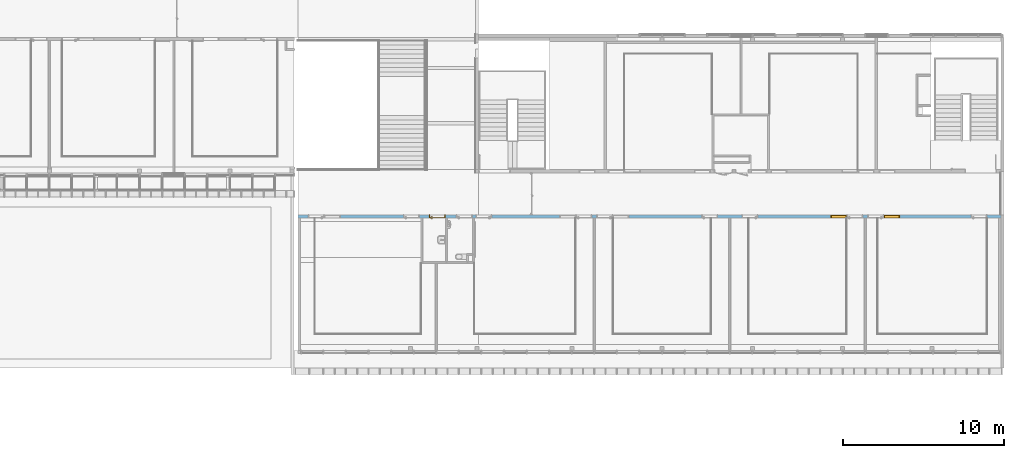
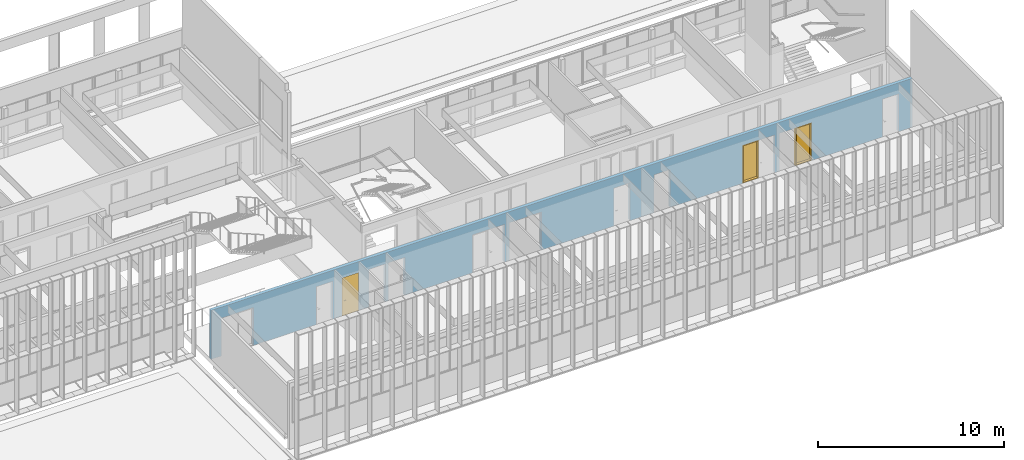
# One storey, part 77 of 106: 2 windows, 1 door, 18 openings, plus 1 element that does not belong to this part.
"""IFC2X3 building model written with IfcOpenShell, lengths in centimetres."""

from ifc_helpers import new_model, entity, si_unit, converted_unit, derived_unit, direction, frame, frame_2d, origin, place, context, subcontext, project, spatial, polyline, rectangle, extrude, clip, bounded_halfspace, faceted_brep, source, transform, mapped, material, material_list, layer, layer_set, layer_usage, type_object, type_shapes, element, fill, save


model = new_model("IFC2X3")

# Units and contexts
model_context = context("Model", 3, precision=0.001, world=origin(), true_north=direction((6.12303176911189e-17, 1.0)))
body_context = subcontext(model_context, "Body", "Model", "MODEL_VIEW")
ifc_project = project(units=[si_unit("LENGTHUNIT", "METRE", prefix="CENTI"), si_unit("AREAUNIT", "SQUARE_METRE"), si_unit("VOLUMEUNIT", "CUBIC_METRE"), converted_unit("PLANEANGLEUNIT", "DEGREE", entity("IfcRatioMeasure", 0.0174532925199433), si_unit("PLANEANGLEUNIT", "RADIAN"), dimensions=[0, 0, 0, 0, 0, 0, 0]), si_unit("MASSUNIT", "GRAM", prefix="KILO"), derived_unit("MASSDENSITYUNIT", [(si_unit("MASSUNIT", "GRAM", prefix="KILO"), 1), (si_unit("LENGTHUNIT", "METRE"), -3)]), si_unit("TIMEUNIT", "SECOND"), si_unit("FREQUENCYUNIT", "HERTZ"), si_unit("THERMODYNAMICTEMPERATUREUNIT", "DEGREE_CELSIUS"), derived_unit("THERMALTRANSMITTANCEUNIT", [(si_unit("MASSUNIT", "GRAM", prefix="KILO"), 1), (si_unit("THERMODYNAMICTEMPERATUREUNIT", "KELVIN"), -1), (si_unit("TIMEUNIT", "SECOND"), -3)]), derived_unit("VOLUMETRICFLOWRATEUNIT", [(si_unit("LENGTHUNIT", "METRE"), 3), (si_unit("TIMEUNIT", "SECOND"), -1)]), si_unit("ELECTRICCURRENTUNIT", "AMPERE"), si_unit("ELECTRICVOLTAGEUNIT", "VOLT"), si_unit("POWERUNIT", "WATT"), si_unit("FORCEUNIT", "NEWTON", prefix="KILO"), si_unit("ILLUMINANCEUNIT", "LUX"), si_unit("LUMINOUSFLUXUNIT", "LUMEN"), si_unit("LUMINOUSINTENSITYUNIT", "CANDELA"), derived_unit("USERDEFINED", [(si_unit("MASSUNIT", "GRAM", prefix="KILO"), -1), (si_unit("LENGTHUNIT", "METRE"), -2), (si_unit("TIMEUNIT", "SECOND"), 3), (si_unit("LUMINOUSFLUXUNIT", "LUMEN"), 1)]), derived_unit("LINEARVELOCITYUNIT", [(si_unit("LENGTHUNIT", "METRE"), 1), (si_unit("TIMEUNIT", "SECOND"), -1)]), si_unit("PRESSUREUNIT", "PASCAL"), derived_unit("USERDEFINED", [(si_unit("LENGTHUNIT", "METRE"), -2), (si_unit("MASSUNIT", "GRAM", prefix="KILO"), 1), (si_unit("TIMEUNIT", "SECOND"), -2)])], contexts=[model_context])

# Site, building, storey
site_placement = place(None, frame((-2781.94577612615, 7442.24238424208, 0.0)))
site = spatial("IfcSite", under=ifc_project, at=site_placement, Name="Default", CompositionType="ELEMENT")
building_placement = place(site_placement, origin())
building = spatial("IfcBuilding", under=site, at=building_placement, CompositionType="ELEMENT")
storey_placement = place(building_placement, frame((0.0, 0.0, 422.0)))
storey = spatial("IfcBuildingStorey", under=building, at=storey_placement, Name="Toiture - Cuisine", CompositionType="ELEMENT", Elevation=421.999999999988)

# Wall, openings, door, windows
ifc_material_1 = material(Name="01 - Maçonnerie")
ifc_layer = layer(ifc_material_1, 20.0)
ifc_layer_set = layer_set([ifc_layer], Name="Mur de base:04 - Structure - béton - 20cm")
ifc_layer_usage = layer_usage(ifc_layer_set, "AXIS2", "NEGATIVE", 10.0)
wall_type = type_object("IfcWallType", Name="Mur de base:04 - Structure - béton - 20cm", PredefinedType="STANDARD", material=ifc_layer_set)
wall_placement = place(building_placement, frame((-4767.99987760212, -2200.15656731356, 422.0)))
wall = element("IfcWallStandardCase", 1, at=wall_placement, inside=storey, type_object=wall_type, material=ifc_layer_usage, Name="Mur de base:04 - Structure - béton - 20cm", ObjectType="Mur de base:04 - Structure - béton - 20cm", context=body_context, shape_type="Clipping", body=[
    clip(extrude(rectangle(XDim=4357.99999476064, YDim=19.9999999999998, at=frame_2d((2178.99999738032, -6.30606677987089e-14), x_axis=(-1.0, 0.0))), origin(), (0.0, 0.0, 1.0), 321.0), bounded_halfspace(frame((0.0, 10.0, 321.0), z_axis=(0.0, 0.0, -1.0), x_axis=(0.0, 1.0, 0.0)), True, frame((0.0, 10.0, 321.0)), polyline([(0.0, 0.0), (0.0, -20.0), (15.2999999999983, -20.0), (103.799999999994, -20.0), (105.799999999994, -20.0), (763.799999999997, -20.0), (773.799999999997, -20.0), (915.699994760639, -20.0), (925.699994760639, -20.0), (1082.69999476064, -20.0), (1092.69999476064, -20.0), (1720.69999476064, -20.0), (1722.69999476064, -20.0), (1832.69999476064, -20.0), (1842.69999476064, -20.0), (1952.69999476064, -20.0), (1954.69999476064, -20.0), (2560.69999476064, -20.0), (2562.69999476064, -20.0), (2672.69999476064, -20.0), (2682.69999476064, -20.0), (2792.69999476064, -20.0), (2794.69999476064, -20.0), (3400.69999476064, -20.0), (3402.69999476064, -20.0), (3512.69999476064, -20.0), (3522.69999476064, -20.0), (3592.69999476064, -20.0), (3594.69999476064, -20.0), (4270.69999476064, -20.0), (4272.69999476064, -20.0), (4342.69999476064, -20.0), (4358.0, -20.0), (4358.0, 0.0), (4356.0, 0.0), (1451.49999791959, 0.0), (1441.49999791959, 0.0), (1120.0, 0.0), (0.0, 0.0)]))),
])
opening_1_placement = place(wall_placement, origin())
element("IfcOpeningElement", 2, at=opening_1_placement, cuts=wall, Name="Mur de base:04 - Structure - béton - 20cm", ObjectType="Opening", context=body_context, shape_type="SweptSolid", body=[
    extrude(rectangle(XDim=270.0, YDim=20.0, at=frame_2d((0.0, 4.2632564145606e-14), x_axis=(0.0, 1.0))), frame((4368.0, 10.0, 135.0), z_axis=(0.0, 1.0, 0.0), x_axis=(1.0, 0.0, 0.0)), (0.0, 0.0, 1.0), 260.077533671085),
])
opening_2_placement = place(wall_placement, frame((4272.69999476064, 10.0, 0.0)))
element("IfcOpeningElement", 3, at=opening_2_placement, cuts=wall, Name="Int. Simple:PV (0.93m x 2.50m):1", ObjectType="Opening", context=body_context, shape_type="SweptSolid", body=[
    extrude(rectangle(XDim=248.500000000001, YDim=99.9999999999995, at=frame_2d((124.250000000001, 50.0), x_axis=(1.0, 0.0))), frame((0.0, 0.0, 0.0), z_axis=(0.0, -1.0, 0.0), x_axis=(0.0, 0.0, 1.0)), (0.0, 0.0, 1.0), 20.0),
])
opening_3_placement = place(wall_placement, frame((3632.69999476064, 10.0, 0.0)))
element("IfcOpeningElement", 4, at=opening_3_placement, cuts=wall, Name="Int. Simple:PV (0.93m x 2.50m):1", ObjectType="Opening", context=body_context, shape_type="SweptSolid", body=[
    extrude(rectangle(XDim=248.500000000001, YDim=99.9999999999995, at=frame_2d((124.250000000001, 49.9999999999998), x_axis=(1.0, 0.0))), frame((0.0, 0.0, 0.0), z_axis=(0.0, -1.0, 0.0), x_axis=(0.0, 0.0, 1.0)), (0.0, 0.0, 1.0), 20.0),
])
opening_4_placement = place(wall_placement, frame((3502.69999476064, 10.0, 0.0)))
element("IfcOpeningElement", 5, at=opening_4_placement, cuts=wall, Name="Int. Simple:PV (0.93m x 2.50m):1", ObjectType="Opening", context=body_context, shape_type="SweptSolid", body=[
    extrude(rectangle(XDim=248.500000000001, YDim=99.9999999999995, at=frame_2d((124.250000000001, 49.9999999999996), x_axis=(1.0, 0.0))), frame((0.0, 0.0, 0.0), z_axis=(0.0, -1.0, 0.0), x_axis=(0.0, 0.0, 1.0)), (0.0, 0.0, 1.0), 20.0),
])
opening_5_placement = place(wall_placement, frame((2852.69999476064, 10.0, 0.0)))
element("IfcOpeningElement", 6, at=opening_5_placement, cuts=wall, Name="Int. Simple:PV (0.93m x 2.50m):1", ObjectType="Opening", context=body_context, shape_type="SweptSolid", body=[
    extrude(rectangle(XDim=248.500000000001, YDim=99.9999999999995, at=frame_2d((124.250000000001, 49.9999999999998), x_axis=(1.0, 0.0))), frame((0.0, 0.0, 0.0), z_axis=(0.0, -1.0, 0.0), x_axis=(0.0, 0.0, 1.0)), (0.0, 0.0, 1.0), 20.0),
])
opening_6_placement = place(wall_placement, frame((2602.69999476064, 10.0, 0.0)))
element("IfcOpeningElement", 7, at=opening_6_placement, cuts=wall, Name="Int. Simple:PV (0.93m x 2.50m):1", ObjectType="Opening", context=body_context, shape_type="SweptSolid", body=[
    extrude(rectangle(XDim=248.500000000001, YDim=99.9999999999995, at=frame_2d((124.250000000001, 49.9999999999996), x_axis=(1.0, 0.0))), frame((0.0, 0.0, 0.0), z_axis=(0.0, -1.0, 0.0), x_axis=(0.0, 0.0, 1.0)), (0.0, 0.0, 1.0), 20.0),
])
opening_7_placement = place(wall_placement, frame((1952.69999476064, 10.0, 0.0)))
element("IfcOpeningElement", 8, at=opening_7_placement, cuts=wall, Name="Int. Simple:PV (0.93m x 2.50m):1", ObjectType="Opening", context=body_context, shape_type="SweptSolid", body=[
    extrude(rectangle(XDim=248.500000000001, YDim=99.9999999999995, at=frame_2d((124.250000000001, 49.9999999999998), x_axis=(1.0, 0.0))), frame((0.0, 0.0, 0.0), z_axis=(0.0, -1.0, 0.0), x_axis=(0.0, 0.0, 1.0)), (0.0, 0.0, 1.0), 20.0),
])
opening_8_placement = place(wall_placement, frame((1822.69999476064, 10.0, 0.0)))
element("IfcOpeningElement", 9, at=opening_8_placement, cuts=wall, Name="Int. Simple:PV (0.93m x 2.50m):1", ObjectType="Opening", context=body_context, shape_type="SweptSolid", body=[
    extrude(rectangle(XDim=248.500000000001, YDim=99.9999999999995, at=frame_2d((124.250000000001, 49.9999999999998), x_axis=(1.0, 0.0))), frame((0.0, 0.0, 0.0), z_axis=(0.0, -1.0, 0.0), x_axis=(0.0, 0.0, 1.0)), (0.0, 0.0, 1.0), 20.0),
])
opening_9_placement = place(wall_placement, frame((1202.69999476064, 10.0, 0.0)))
element("IfcOpeningElement", 10, at=opening_9_placement, cuts=wall, Name="Int. Simple:PV (0.93m x 2.50m):1", ObjectType="Opening", context=body_context, shape_type="SweptSolid", body=[
    extrude(rectangle(XDim=248.500000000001, YDim=99.9999999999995, at=frame_2d((124.250000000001, 49.9999999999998), x_axis=(1.0, 0.0))), frame((0.0, 0.0, 0.0), z_axis=(0.0, -1.0, 0.0), x_axis=(0.0, 0.0, 1.0)), (0.0, 0.0, 1.0), 20.0),
])
opening_10_placement = place(wall_placement, frame((1081.19999476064, 10.0, 0.0)))
element("IfcOpeningElement", 11, at=opening_10_placement, cuts=wall, Name="Int. Simple:PP simple (0.93m x 2.50m):1", ObjectType="Opening", context=body_context, shape_type="SweptSolid", body=[
    extrude(rectangle(XDim=248.500000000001, YDim=99.9999999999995, at=frame_2d((124.250000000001, 49.9999999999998), x_axis=(1.0, 0.0))), frame((0.0, 0.0, 0.0), z_axis=(0.0, -1.0, 0.0), x_axis=(0.0, 0.0, 1.0)), (0.0, 0.0, 1.0), 20.0),
])
opening_11_placement = place(wall_placement, frame((753.799999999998, 10.0, 0.0)))
element("IfcOpeningElement", 12, at=opening_11_placement, cuts=wall, Name="Int. Simple:PV (0.93m x 2.50m):1", ObjectType="Opening", context=body_context, shape_type="SweptSolid", body=[
    extrude(rectangle(XDim=248.500000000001, YDim=99.9999999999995, at=frame_2d((124.250000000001, 50.0), x_axis=(1.0, 0.0))), frame((0.0, 0.0, 0.0), z_axis=(0.0, -1.0, 0.0), x_axis=(0.0, 0.0, 1.0)), (0.0, 0.0, 1.0), 20.0),
])
opening_12_placement = place(wall_placement, frame((163.799999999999, 10.0, 0.0)))
element("IfcOpeningElement", 13, at=opening_12_placement, cuts=wall, Name="Int. Simple:PV (0.93m x 2.50m):1", ObjectType="Opening", context=body_context, shape_type="SweptSolid", body=[
    extrude(rectangle(XDim=248.500000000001, YDim=99.9999999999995, at=frame_2d((124.250000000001, 49.9999999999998), x_axis=(1.0, 0.0))), frame((0.0, 0.0, 0.0), z_axis=(0.0, -1.0, 0.0), x_axis=(0.0, 0.0, 1.0)), (0.0, 0.0, 1.0), 20.0),
])
opening_13_placement = place(wall_placement, frame((263.799999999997, 10.0, 0.0)))
element("IfcOpeningElement", 14, at=opening_13_placement, cuts=wall, Name="châssis intérieur vitré:châssis intérieur vitré (h=270) R+1:1", ObjectType="Opening", context=body_context, shape_type="SweptSolid", body=[
    extrude(rectangle(XDim=250.0, YDim=99.9999999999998, at=frame_2d((125.0, 49.9999999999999), x_axis=(1.0, 0.0))), frame((0.0, 0.0, 0.0), z_axis=(0.0, -1.0, 0.0), x_axis=(0.0, 0.0, 1.0)), (0.0, 0.0, 1.0), 20.0),
])
opening_14_placement = place(wall_placement, frame((1722.69999476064, 10.0, 0.0)))
element("IfcOpeningElement", 15, at=opening_14_placement, cuts=wall, Name="châssis intérieur vitré:châssis intérieur vitré (h=270) R+1:1", ObjectType="Opening", context=body_context, shape_type="SweptSolid", body=[
    extrude(rectangle(XDim=250.0, YDim=99.9999999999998, at=frame_2d((125.0, 49.9999999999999), x_axis=(1.0, 0.0))), frame((0.0, 0.0, 0.0), z_axis=(0.0, -1.0, 0.0), x_axis=(0.0, 0.0, 1.0)), (0.0, 0.0, 1.0), 20.0),
])
opening_15_placement = place(wall_placement, frame((2052.69999476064, 10.0, 0.0)))
element("IfcOpeningElement", 16, at=opening_15_placement, cuts=wall, Name="châssis intérieur vitré:châssis intérieur vitré (h=270) R+1:1", ObjectType="Opening", context=body_context, shape_type="SweptSolid", body=[
    extrude(rectangle(XDim=250.0, YDim=99.9999999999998, at=frame_2d((125.0, 49.9999999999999), x_axis=(1.0, 0.0))), frame((0.0, 0.0, 0.0), z_axis=(0.0, -1.0, 0.0), x_axis=(0.0, 0.0, 1.0)), (0.0, 0.0, 1.0), 20.0),
])
opening_16_placement = place(wall_placement, frame((3402.69999476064, 10.0, 0.0)))
opening_16 = element("IfcOpeningElement", 17, at=opening_16_placement, cuts=wall, Name="châssis intérieur vitré:châssis intérieur vitré (h=270) R+1:1", ObjectType="Opening", context=body_context, shape_type="SweptSolid", body=[
    extrude(rectangle(XDim=250.0, YDim=99.9999999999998, at=frame_2d((125.0, 49.9999999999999), x_axis=(1.0, 0.0))), frame((0.0, 0.0, 0.0), z_axis=(0.0, -1.0, 0.0), x_axis=(0.0, 0.0, 1.0)), (0.0, 0.0, 1.0), 20.0),
])
opening_17_placement = place(wall_placement, frame((3732.69999476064, 10.0, 0.0)))
opening_17 = element("IfcOpeningElement", 18, at=opening_17_placement, cuts=wall, Name="châssis intérieur vitré:châssis intérieur vitré (h=270) R+1:1", ObjectType="Opening", context=body_context, shape_type="SweptSolid", body=[
    extrude(rectangle(XDim=250.0, YDim=99.9999999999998, at=frame_2d((125.0, 49.9999999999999), x_axis=(1.0, 0.0))), frame((0.0, 0.0, 0.0), z_axis=(0.0, -1.0, 0.0), x_axis=(0.0, 0.0, 1.0)), (0.0, 0.0, 1.0), 20.0),
])
opening_18_placement = place(wall_placement, frame((914.199994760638, 10.0, 0.0)))
opening_18 = element("IfcOpeningElement", 19, at=opening_18_placement, cuts=wall, Name="Int. Simple:PP simple (0.93m x 2.50m):1", ObjectType="Opening", context=body_context, shape_type="SweptSolid", body=[
    extrude(rectangle(XDim=248.500000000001, YDim=99.9999999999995, at=frame_2d((124.250000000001, 50.0), x_axis=(1.0, 0.0))), frame((0.0, 0.0, 0.0), z_axis=(0.0, -1.0, 0.0), x_axis=(0.0, 0.0, 1.0)), (0.0, 0.0, 1.0), 20.0),
])
ifc_material_2 = material(Name="Finition Peinture - Blanc satiné")
ifc_material_3 = material(Name="Bois - Panneau de porte")
ifc_material_4 = material(Name="Bois - Cadre de porte")
ifc_material_list_1 = material_list([ifc_material_2, ifc_material_3, ifc_material_4])
ifc_material_list_2 = material_list([ifc_material_2, ifc_material_3, ifc_material_4])
door_style = type_object("IfcDoorStyle", Name="PP simple (0.93m x 2.50m)", ConstructionType="NOTDEFINED", OperationType="SINGLE_SWING_LEFT", ParameterTakesPrecedence=False, Sizeable=False, material=ifc_material_list_2)
shared_shape_1 = source(origin(), body_context, "Body", "Brep", [
    faceted_brep([(10.5352761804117, -0.500000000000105, 86.6003983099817), (11.5000000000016, -0.500000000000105, 87.0), (11.5000000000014, -0.500000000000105, 108.0), (10.5352761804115, -0.500000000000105, 108.399601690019), (9.50000000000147, -0.500000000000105, 108.535898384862), (8.46472381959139, -0.500000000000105, 108.399601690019), (7.50000000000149, -0.500000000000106, 108.0), (7.50000000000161, -0.500000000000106, 87.0), (8.46472381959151, -0.500000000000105, 86.6003983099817), (9.50000000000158, -0.500000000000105, 86.464101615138), (10.5352761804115, 0.0, 108.399601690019), (11.5000000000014, 0.0, 108.0), (11.5000000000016, 0.0, 87.0), (10.5352761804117, 0.0, 86.6003983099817), (9.50000000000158, 0.0, 86.464101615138), (8.46472381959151, 0.0, 86.6003983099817), (7.50000000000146, 0.0, 87.0), (7.50000000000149, 0.0, 108.0), (8.46472381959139, 0.0, 108.399601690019), (9.50000000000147, 0.0, 108.535898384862)], [[[0, 1, 2, 3, 4, 5, 6, 7, 8, 9]], [[10, 11, 12, 13, 14, 15, 16, 17, 18, 19]], [[16, 15, 8, 7]], [[8, 15, 14, 9]], [[14, 13, 0, 9]], [[13, 12, 1, 0]], [[2, 1, 12, 11]], [[11, 10, 3, 2]], [[3, 10, 19, 4]], [[19, 18, 5, 4]], [[18, 17, 6, 5]], [[7, 6, 17, 16]]]),
    faceted_brep([(10.5352761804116, 4.0, 86.6003983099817), (11.5000000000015, 4.0, 87.0), (11.5000000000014, 4.0, 108.0), (10.5352761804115, 4.0, 108.399601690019), (9.50000000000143, 4.0, 108.535898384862), (8.46472381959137, 4.0, 108.399601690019), (7.50000000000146, 4.0, 108.0), (7.50000000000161, 4.0, 87.0), (8.46472381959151, 4.0, 86.6003983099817), (9.50000000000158, 4.0, 86.464101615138), (10.5352761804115, 4.49999999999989, 108.399601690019), (11.5000000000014, 4.49999999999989, 108.0), (11.5000000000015, 4.49999999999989, 87.0), (10.5352761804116, 4.49999999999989, 86.6003983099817), (9.50000000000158, 4.49999999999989, 86.464101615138), (8.46472381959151, 4.49999999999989, 86.6003983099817), (7.50000000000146, 4.49999999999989, 87.0), (7.50000000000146, 4.49999999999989, 108.0), (8.46472381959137, 4.49999999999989, 108.399601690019), (9.50000000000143, 4.49999999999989, 108.535898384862)], [[[0, 1, 2, 3, 4, 5, 6, 7, 8, 9]], [[10, 11, 12, 13, 14, 15, 16, 17, 18, 19]], [[11, 10, 3, 2]], [[3, 10, 19, 4]], [[19, 18, 5, 4]], [[18, 17, 6, 5]], [[7, 6, 17, 16]], [[16, 15, 8, 7]], [[8, 15, 14, 9]], [[14, 13, 0, 9]], [[13, 12, 1, 0]], [[2, 1, 12, 11]]]),
    faceted_brep([(9.29747013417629, -0.500000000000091, 100.778044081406), (9.70252986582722, -0.500000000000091, 100.778044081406), (10.1000000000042, -0.500000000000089, 100.699999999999), (10.1000000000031, -0.500000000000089, 99.3000000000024), (9.7025298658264, -0.500000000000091, 99.2219559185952), (9.29747013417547, -0.500000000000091, 99.221955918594), (8.8999999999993, -0.500000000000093, 99.2999999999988), (8.89999999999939, -0.500000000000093, 100.7), (8.89999999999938, -3.26509507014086, 100.7), (9.29747013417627, -3.10045754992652, 100.778044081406), (10.9023585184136, -4.70534593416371, 100.778044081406), (11.0701397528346, -4.30028620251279, 100.778044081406), (9.7025298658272, -2.93267631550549, 100.778044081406), (10.1000000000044, -2.76803879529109, 100.7), (10.1000000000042, -2.76803879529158, 99.3000000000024), (9.7025298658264, -2.93267631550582, 99.2219559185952), (11.0701397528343, -4.30028620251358, 99.2219559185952), (10.9023585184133, -4.70534593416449, 99.221955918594), (9.29747013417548, -3.10045754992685, 99.221955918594), (8.89999999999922, -3.26509507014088, 99.2999999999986), (10.7377209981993, -5.10281606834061, 100.7), (11.2347772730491, -3.90281606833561, 100.7), (11.2347772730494, -3.90281606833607, 99.3000000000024), (10.7377209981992, -5.10281606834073, 99.2999999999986), (19.5018640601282, -5.1028160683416, 99.2999999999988), (19.5018640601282, -4.70534593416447, 99.221955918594), (19.5018640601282, -4.30028620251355, 99.2219559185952), (19.5018640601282, -3.90281606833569, 99.3000000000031), (19.5018640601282, -3.90281606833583, 100.7), (19.5018640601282, -4.30028620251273, 100.778044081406), (19.5018640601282, -4.70534593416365, 100.778044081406), (19.5018640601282, -5.10281606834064, 100.699999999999), (14.7307697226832, -5.10281606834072, 100.7), (15.2860019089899, -4.5028160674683, 100.78786867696), (15.3683206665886, -3.9028160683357, 100.7), (15.3683206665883, -3.90281606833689, 99.3000000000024), (15.2860018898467, -4.50281607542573, 99.2121313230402), (14.7307700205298, -5.10281606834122, 99.2999999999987)], [[[0, 1, 2, 3, 4, 5, 6, 7]], [[8, 9, 0, 7]], [[9, 10, 11, 12, 1, 0]], [[12, 13, 2, 1]], [[3, 2, 13, 14]], [[14, 15, 4, 3]], [[15, 16, 17, 18, 5, 4]], [[18, 19, 6, 5]], [[7, 6, 19, 8]], [[20, 10, 9, 8]], [[11, 21, 13, 12]], [[14, 13, 21, 22]], [[22, 16, 15, 14]], [[17, 23, 19, 18]], [[8, 19, 23, 20]], [[24, 25, 26, 27, 28, 29, 30, 31]], [[32, 30, 33]], [[31, 30, 32]], [[10, 20, 32]], [[33, 34, 11]], [[21, 11, 34]], [[34, 29, 28]], [[30, 29, 33]], [[29, 34, 33]], [[10, 32, 33]], [[10, 33, 11]], [[22, 21, 34, 28, 27, 35]], [[35, 26, 36]], [[37, 36, 25]], [[22, 35, 16]], [[35, 27, 26]], [[24, 37, 25]], [[23, 17, 37]], [[37, 17, 36]], [[17, 16, 36]], [[16, 35, 36]], [[25, 36, 26]], [[20, 23, 37, 24, 31, 32]]]),
    faceted_brep([(9.29747013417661, 4.49999999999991, 100.778044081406), (8.89999999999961, 4.4999999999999, 100.7), (8.89999999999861, 4.4999999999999, 99.2999999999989), (9.29747013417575, 4.49999999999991, 99.221955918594), (9.70252986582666, 4.49999999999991, 99.2219559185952), (10.1000000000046, 4.49999999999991, 99.3000000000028), (10.1000000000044, 4.49999999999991, 100.7), (9.70252986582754, 4.49999999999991, 100.778044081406), (10.1000000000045, 6.7485204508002, 99.3000000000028), (10.1000000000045, 6.74852045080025, 100.7), (9.70252986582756, 6.91315797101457, 100.778044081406), (11.083890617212, 8.29451872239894, 100.778044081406), (10.916109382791, 8.69957845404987, 100.778044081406), (9.29747013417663, 7.0809392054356, 100.778044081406), (8.89999999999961, 7.24557672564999, 100.7), (8.89999999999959, 7.2455767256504, 99.2999999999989), (9.29747013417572, 7.08093920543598, 99.221955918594), (10.9161093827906, 8.69957845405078, 99.221955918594), (11.0838906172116, 8.29451872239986, 99.2219559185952), (9.70252986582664, 6.91315797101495, 99.2219559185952), (11.2485281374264, 7.89704858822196, 99.3000000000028), (11.2485281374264, 7.89704858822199, 100.7), (10.7514718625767, 9.09704858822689, 100.7), (10.7514718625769, 9.0970485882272, 99.2999999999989), (19.5045783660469, 7.89704858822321, 99.3000000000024), (19.5045783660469, 8.29451872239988, 99.2219559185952), (19.5045783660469, 8.6995784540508, 99.221955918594), (19.5045783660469, 9.09704858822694, 99.2999999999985), (19.5045783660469, 9.09704858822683, 100.7), (19.5045783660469, 8.69957845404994, 100.778044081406), (19.5045783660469, 8.29451872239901, 100.778044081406), (19.5045783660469, 7.89704858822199, 100.7), (15.3765520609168, 7.89704858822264, 99.3000000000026), (15.3765532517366, 7.89704858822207, 100.7), (15.294234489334, 8.49704858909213, 100.78786867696), (14.7445205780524, 9.09704858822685, 100.7), (14.7445204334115, 9.09704858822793, 99.2999999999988), (15.2942345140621, 8.49704858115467, 99.2121313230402)], [[[0, 1, 2, 3, 4, 5, 6, 7]], [[6, 5, 8, 9]], [[9, 10, 7, 6]], [[10, 11, 12, 13, 0, 7]], [[13, 14, 1, 0]], [[2, 1, 14, 15]], [[15, 16, 3, 2]], [[16, 17, 18, 19, 4, 3]], [[19, 8, 5, 4]], [[9, 8, 20, 21]], [[21, 11, 10, 9]], [[12, 22, 14, 13]], [[15, 14, 22, 23]], [[23, 17, 16, 15]], [[18, 20, 8, 19]], [[24, 25, 26, 27, 28, 29, 30, 31]], [[21, 20, 32, 24, 31, 33]], [[33, 30, 34]], [[35, 34, 29]], [[21, 33, 11]], [[33, 31, 30]], [[28, 35, 29]], [[22, 12, 35]], [[35, 12, 34]], [[12, 11, 34]], [[11, 33, 34]], [[29, 34, 30]], [[22, 35, 28, 27, 36, 23]], [[36, 26, 37]], [[27, 26, 36]], [[17, 23, 36]], [[37, 32, 18]], [[20, 18, 32]], [[32, 25, 24]], [[26, 25, 37]], [[25, 32, 37]], [[17, 36, 37]], [[17, 37, 18]]]),
    faceted_brep([(3.50000000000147, 4.0, 245.0), (96.5000000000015, 4.0, 245.0), (96.5000000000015, 4.0, 0.0), (3.50000000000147, 4.0, 0.0), (3.50000000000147, 0.0, 245.0), (3.50000000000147, 0.0, 0.0), (96.5000000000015, 0.0, 0.0), (96.5000000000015, 0.0, 245.0)], [[[0, 1, 2, 3]], [[4, 5, 6, 7]], [[1, 0, 4, 7]], [[2, 1, 7, 6]], [[3, 2, 6, 5]], [[0, 3, 5, 4]]]),
    faceted_brep([(0.0, 20.0, 0.0), (-1.50000000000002, 20.0, 0.0), (-1.50000000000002, 20.5000000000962, 0.0), (5.0, 20.5000000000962, 0.0), (5.0, 4.0, 0.0), (3.50000000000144, 4.0, 0.0), (3.50000000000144, -0.500000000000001, 0.0), (-1.50000000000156, -0.500000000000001, 0.0), (-1.50000000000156, 0.0, 0.0), (0.0, 0.0, 0.0), (0.0, 0.0, 248.500000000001), (0.0, 20.0, 248.500000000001), (100.0, 20.0, 248.500000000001), (100.0, 20.0, 0.0), (101.5, 20.0, 0.0), (101.5, 20.0, 250.0), (-1.50000000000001, 20.0, 250.0), (5.0, 20.5000000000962, 243.5), (5.0, 4.0, 243.5), (95.0, 4.0, 243.5), (95.0, 4.0, 0.0), (96.499999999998, 4.0, 0.0), (96.499999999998, 4.0, 245.0), (3.50000000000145, 4.0, 245.0), (100.0, 0.0, 248.500000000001), (100.0, 0.0, 0.0), (101.500000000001, 0.0, 0.0), (101.500000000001, -0.500000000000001, 0.0), (96.499999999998, -0.500000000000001, 0.0), (95.0, 20.5000000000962, 0.0), (101.5, 20.5000000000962, 0.0), (95.0, 20.5000000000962, 243.5), (3.50000000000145, -0.500000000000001, 245.0), (96.499999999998, -0.500000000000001, 245.0), (101.500000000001, -0.500000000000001, 250.0), (-1.50000000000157, -0.500000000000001, 250.0), (-1.50000000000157, 0.0, 250.0), (101.500000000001, 0.0, 250.0), (-1.50000000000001, 20.5000000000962, 250.0), (101.5, 20.5000000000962, 250.0)], [[[0, 1, 2, 3, 4, 5, 6, 7, 8, 9]], [[0, 9, 10, 11]], [[1, 0, 11, 12, 13, 14, 15, 16]], [[3, 17, 18, 4]], [[5, 4, 18, 19, 20, 21, 22, 23]], [[12, 24, 25, 13]], [[13, 25, 26, 27, 28, 21, 20, 29, 30, 14]], [[19, 31, 29, 20]], [[11, 10, 24, 12]], [[18, 17, 31, 19]], [[5, 23, 32, 6]], [[7, 6, 32, 33, 28, 27, 34, 35]], [[8, 7, 35, 36]], [[9, 8, 36, 37, 26, 25, 24, 10]], [[2, 1, 16, 38]], [[3, 2, 38, 39, 30, 29, 31, 17]], [[33, 22, 21, 28]], [[37, 34, 27, 26]], [[39, 15, 14, 30]], [[32, 23, 22, 33]], [[36, 35, 34, 37]], [[38, 16, 15, 39]]]),
])
type_shapes(door_style, [shared_shape_1])
door_placement = place(opening_18_placement, frame((-100.0, -20.0, 0.0)))
door = element("IfcDoor", 20, at=door_placement, inside=storey, type_object=door_style, material=ifc_material_list_1, Name="Int. Simple:PP simple (0.93m x 2.50m)", ObjectType="Int. Simple:PP simple (0.93m x 2.50m)", OverallHeight=248.500000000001, OverallWidth=99.9999999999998, context=body_context, shape_type="MappedRepresentation", body=[
    mapped(shared_shape_1, transform((0.0, 0.0, 0.0), scale=1.0)),
])
fill(opening_18, door)
ifc_material_5 = material(Name="Verre")
ifc_material_6 = material(Name="huisserie bois")
ifc_material_list_3 = material_list([ifc_material_5, ifc_material_6])
ifc_material_list_4 = material_list([ifc_material_5, ifc_material_6])
window_style = type_object("IfcWindowStyle", Name="châssis intérieur vitré (h=270) R+1", ConstructionType="NOTDEFINED", OperationType="NOTDEFINED", ParameterTakesPrecedence=False, Sizeable=False, material=ifc_material_list_4)
shared_shape_2 = source(origin(), body_context, "Body", "Brep", [
    faceted_brep([(3.0, 5.0, 247.0), (97.0, 5.0, 247.0), (97.0, 5.0, 3.0), (3.0, 5.0, 3.0), (3.0, 2.0, 3.0), (3.0, 2.0, 247.0), (97.0, 2.0, 3.0), (97.0, 2.0, 247.0)], [[[0, 1, 2, 3]], [[3, 4, 5, 0]], [[2, 6, 4, 3]], [[1, 7, 6, 2]], [[5, 4, 6, 7]], [[0, 5, 7, 1]]]),
    faceted_brep([(3.0, 2.0, 247.0), (3.0, 2.0, 3.0), (3.0, 0.0, 3.0), (3.0, 0.0, 247.0), (97.0, 0.0, 3.0), (97.0, 0.0, 247.0), (5.0, 0.0, 5.0), (5.0, 0.0, 245.0), (95.0, 0.0, 245.0), (95.0, 0.0, 5.0), (97.0, 2.0, 3.0), (97.0, 2.0, 247.0), (5.0, 2.0, 245.0), (5.0, 2.0, 5.0), (95.0, 2.0, 5.0), (95.0, 2.0, 245.0)], [[[0, 1, 2, 3]], [[3, 2, 4, 5], [6, 7, 8, 9]], [[1, 10, 4, 2]], [[1, 0, 11, 10], [12, 13, 14, 15]], [[7, 6, 13, 12]], [[6, 9, 14, 13]], [[10, 11, 5, 4]], [[9, 8, 15, 14]], [[11, 0, 3, 5]], [[8, 7, 12, 15]]]),
    faceted_brep([(5.0, 5.0, 245.0), (5.0, 5.0, 5.0), (5.0, 20.0, 5.0), (5.0, 20.0, 245.0), (95.0, 20.0, 5.0), (95.0, 20.0, 245.0), (0.0, 20.0, 0.0), (0.0, 20.0, 250.0), (100.0, 20.0, 250.0), (100.0, 20.0, 0.0), (95.0, 5.0, 5.0), (95.0, 5.0, 245.0), (3.0, 5.0, 247.0), (3.0, 5.0, 3.0), (97.0, 5.0, 3.0), (97.0, 5.0, 247.0), (3.0, 0.0, 247.0), (3.0, 0.0, 3.0), (97.0, 0.0, 3.0), (97.0, 0.0, 247.0), (0.0, 0.0, 250.0), (0.0, 0.0, 0.0), (100.0, 0.0, 0.0), (100.0, 0.0, 250.0)], [[[0, 1, 2, 3]], [[3, 2, 4, 5], [6, 7, 8, 9]], [[1, 10, 4, 2]], [[1, 0, 11, 10], [12, 13, 14, 15]], [[16, 17, 13, 12]], [[17, 18, 14, 13]], [[17, 16, 19, 18], [20, 21, 22, 23]], [[7, 6, 21, 20]], [[6, 9, 22, 21]], [[10, 11, 5, 4]], [[18, 19, 15, 14]], [[9, 8, 23, 22]], [[11, 0, 3, 5]], [[19, 16, 12, 15]], [[8, 7, 20, 23]]], outer=[[True], [False, True], [True], [False, True], [True], [True], [False, True], [True], [True], [True], [True], [True], [True], [True], [True]]),
])
type_shapes(window_style, [shared_shape_2])
window_1_placement = place(opening_16_placement, frame((0.0, 0.0, 0.0), z_axis=(0.0, 0.0, 1.0), x_axis=(-1.0, 0.0, 0.0)))
window_1 = element("IfcWindow", 21, at=window_1_placement, inside=storey, type_object=window_style, material=ifc_material_list_3, Name="châssis intérieur vitré:châssis intérieur vitré (h=270) R+1", ObjectType="châssis intérieur vitré:châssis intérieur vitré (h=270) R+1", OverallHeight=250.0, OverallWidth=100.0, context=body_context, shape_type="MappedRepresentation", body=[
    mapped(shared_shape_2, transform((0.0, 0.0, 0.0), scale=1.0)),
])
fill(opening_16, window_1)
ifc_material_list_5 = material_list([ifc_material_5, ifc_material_6])
window_2_placement = place(opening_17_placement, frame((0.0, 0.0, 0.0), z_axis=(0.0, 0.0, 1.0), x_axis=(-1.0, 0.0, 0.0)))
window_2 = element("IfcWindow", 22, at=window_2_placement, inside=storey, type_object=window_style, material=ifc_material_list_5, Name="châssis intérieur vitré:châssis intérieur vitré (h=270) R+1", ObjectType="châssis intérieur vitré:châssis intérieur vitré (h=270) R+1", OverallHeight=250.0, OverallWidth=100.0, context=body_context, shape_type="MappedRepresentation", body=[
    mapped(shared_shape_2, transform((0.0, 0.0, 0.0), scale=1.0)),
])
fill(opening_17, window_2)

save(model, "model.ifc")
